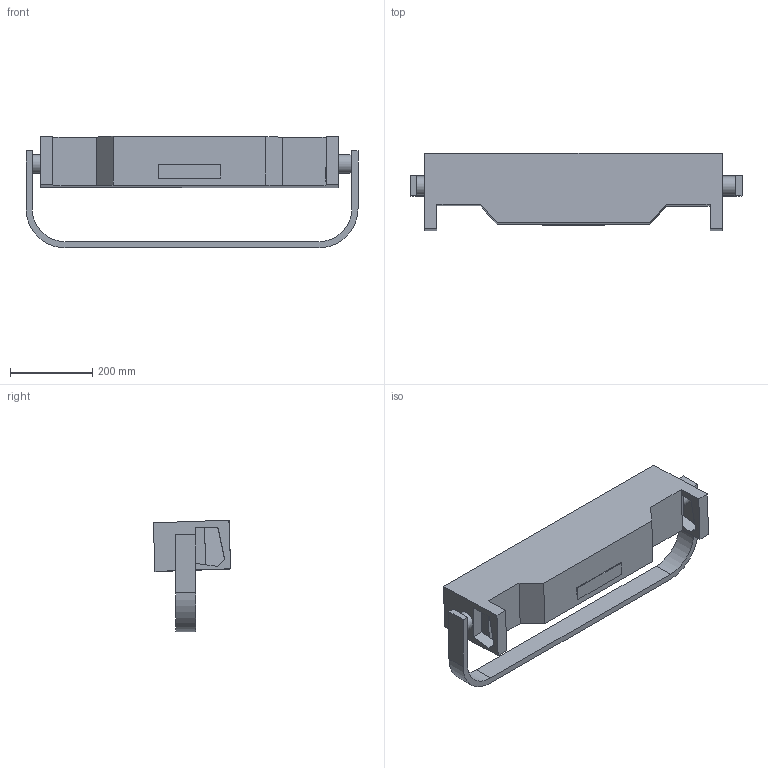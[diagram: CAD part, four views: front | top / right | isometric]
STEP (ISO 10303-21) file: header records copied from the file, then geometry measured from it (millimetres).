
FILE_DESCRIPTION(/* description */ (''),/* implementation_level */ '2;1');
FILE_NAME(/* name */ 'onAir Panel 3 IP_90_3D.stp',/* time_stamp */ '2024-04-10T10:54:10-04:00',/* author */ ('dgooch'),/* organization */ (''),/* preprocessor_version */ 'ST-DEVELOPER v20',/* originating_system */ 'Autodesk Inventor 2024',/* authorisation */ '');
FILE_SCHEMA (('AUTOMOTIVE_DESIGN { 1 0 10303 214 3 1 1 }'));
Length unit declared in the file: millimetre
Products named in the file (3): onAir Panel 3 IP_0; Arm; Body
Assembly tree (2 placements, depth 2):
  onAir Panel 3 IP_0
    Arm
    Body
Bounding box: 808.4 x 188.47 x 271.89 mm (x, y, z)
Volume: 13888359.5 mm3; surface area: 622784.8 mm2
Topology: 2 solids, 2 shells, 53 faces, 138 edges, 92 vertices
Faces by surface type: plane 45, cylinder 6, bspline 2
Full cylindrical faces by diameter (mm): 45.369 x2
Entity records: 3483 total; most frequent: CARTESIAN_POINT 2050, ORIENTED_EDGE 276, DIRECTION 258, EDGE_CURVE 138, LINE 122, VECTOR 122, VERTEX_POINT 92, AXIS2_PLACEMENT_3D 68
